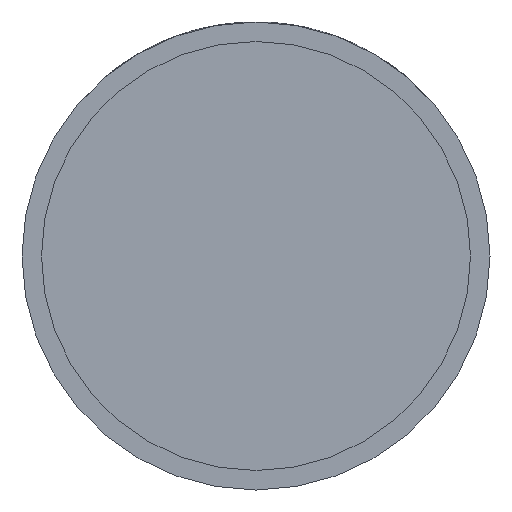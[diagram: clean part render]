
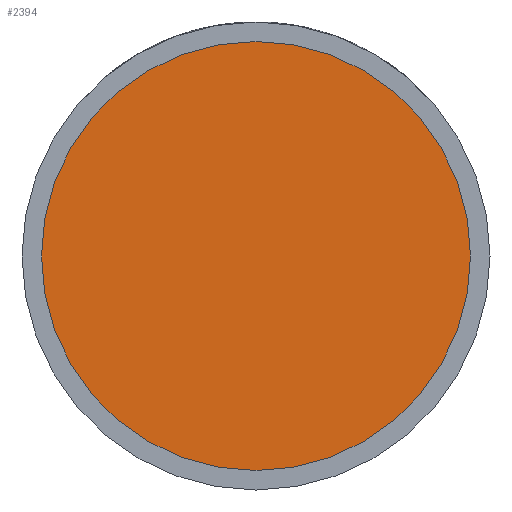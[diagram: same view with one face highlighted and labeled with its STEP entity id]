
A CAD part, front view. The second image highlights one B-rep face of the part: STEP entity #2394.
In plain terms, the highlighted planar face has unit normal (0, -1, 0).
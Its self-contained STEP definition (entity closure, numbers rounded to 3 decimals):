
#179 = AXIS2_PLACEMENT_3D ( 'NONE', #3888, #2241, #2686 ) ;
#442 = DIRECTION ( 'NONE',  ( 0., -1., 0. ) ) ;
#781 = DIRECTION ( 'NONE',  ( 0., -1., 0. ) ) ;
#1360 = CIRCLE ( 'NONE', #1493, 22. ) ;
#1493 = AXIS2_PLACEMENT_3D ( 'NONE', #2371, #781, #3722 ) ;
#1913 = AXIS2_PLACEMENT_3D ( 'NONE', #3438, #442, #3399 ) ;
#2241 = DIRECTION ( 'NONE',  ( 0., -1., 0. ) ) ;
#2371 = CARTESIAN_POINT ( 'NONE',  ( 0., -17.5, 0. ) ) ;
#2394 = ADVANCED_FACE ( 'NONE', ( #3281 ), #2972, .T. ) ;
#2495 = ORIENTED_EDGE ( 'NONE', *, *, #3169, .T. ) ;
#2550 = ORIENTED_EDGE ( 'NONE', *, *, #2833, .T. ) ;
#2686 = DIRECTION ( 'NONE',  ( 1., 0., 0. ) ) ;
#2797 = CIRCLE ( 'NONE', #1913, 22. ) ;
#2833 = EDGE_CURVE ( 'NONE', #3635, #3843, #2797, .T. ) ;
#2842 = EDGE_LOOP ( 'NONE', ( #2495, #2550 ) ) ;
#2902 = CARTESIAN_POINT ( 'NONE',  ( 22., -17.5, 0. ) ) ;
#2972 = PLANE ( 'NONE',  #179 ) ;
#3035 = CARTESIAN_POINT ( 'NONE',  ( -22., -17.5, 0. ) ) ;
#3169 = EDGE_CURVE ( 'NONE', #3843, #3635, #1360, .T. ) ;
#3281 = FACE_OUTER_BOUND ( 'NONE', #2842, .T. ) ;
#3399 = DIRECTION ( 'NONE',  ( 1., 0., 0. ) ) ;
#3438 = CARTESIAN_POINT ( 'NONE',  ( 0., -17.5, 0. ) ) ;
#3635 = VERTEX_POINT ( 'NONE', #3035 ) ;
#3722 = DIRECTION ( 'NONE',  ( 1., 0., 0. ) ) ;
#3843 = VERTEX_POINT ( 'NONE', #2902 ) ;
#3888 = CARTESIAN_POINT ( 'NONE',  ( 22., -17.5, 0. ) ) ;
